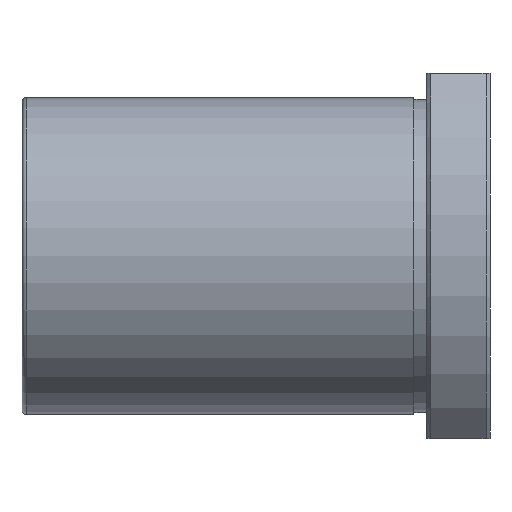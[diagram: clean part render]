
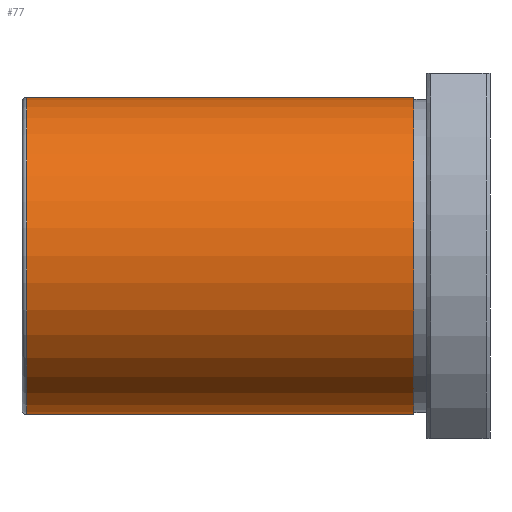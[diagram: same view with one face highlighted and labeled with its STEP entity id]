
A CAD part, top view. The second image highlights one B-rep face of the part: STEP entity #77.
In plain terms, the highlighted cylindrical face has radius 20 mm (diameter 40 mm), a full revolution.
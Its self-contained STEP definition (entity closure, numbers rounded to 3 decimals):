
#77=ADVANCED_FACE('',(#108,#109),#110,.T.);
#108=FACE_OUTER_BOUND('',#192,.T.);
#109=FACE_OUTER_BOUND('',#193,.T.);
#110=CYLINDRICAL_SURFACE('',#194,20.0);
#192=EDGE_LOOP('',(#290));
#193=EDGE_LOOP('',(#291));
#194=AXIS2_PLACEMENT_3D('',#292,#293,#294);
#290=ORIENTED_EDGE('',*,*,#461,.F.);
#291=ORIENTED_EDGE('',*,*,#462,.T.);
#292=CARTESIAN_POINT('',(-34.0,0.,0.));
#293=DIRECTION('',(-1.0,-0.0,0.));
#294=DIRECTION('',(0.0,1.0,0.0));
#461=EDGE_CURVE('',#518,#518,#519,.T.);
#462=EDGE_CURVE('',#520,#520,#521,.T.);
#518=VERTEX_POINT('',#623);
#519=CIRCLE('',#624,20.0);
#520=VERTEX_POINT('',#625);
#521=CIRCLE('',#626,20.0);
#623=CARTESIAN_POINT('',(-58.4,20.0,0.));
#624=AXIS2_PLACEMENT_3D('',#711,#712,#713);
#625=CARTESIAN_POINT('',(-9.6,20.0,0.));
#626=AXIS2_PLACEMENT_3D('',#714,#715,#716);
#711=CARTESIAN_POINT('',(-58.4,0.,0.));
#712=DIRECTION('',(-1.0,0.0,0.));
#713=DIRECTION('',(0.0,1.0,0.0));
#714=CARTESIAN_POINT('',(-9.6,0.,0.));
#715=DIRECTION('',(-1.0,0.0,0.));
#716=DIRECTION('',(0.0,1.0,0.0));
